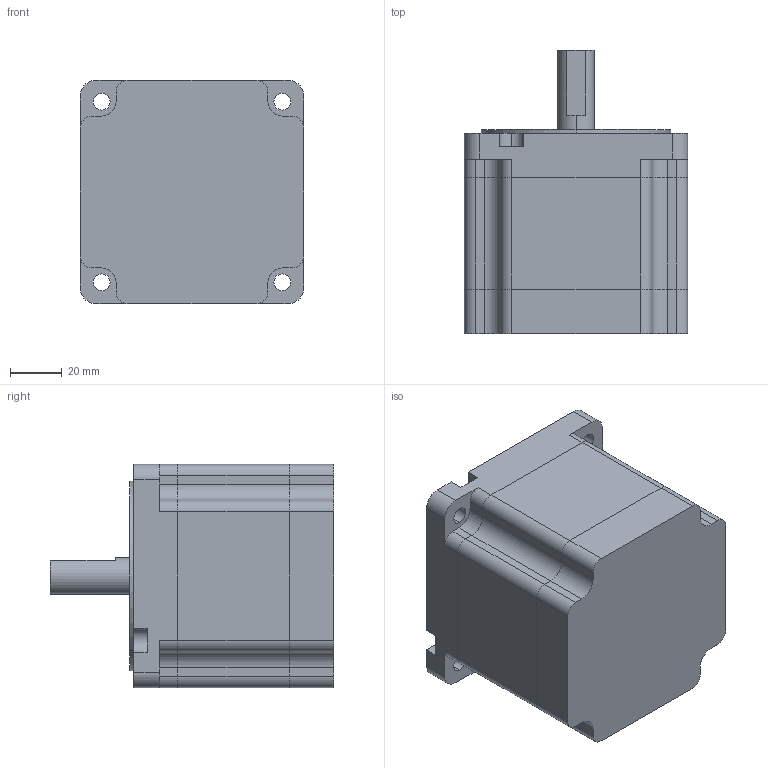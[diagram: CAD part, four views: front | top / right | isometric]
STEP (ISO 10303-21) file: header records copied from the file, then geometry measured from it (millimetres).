
FILE_DESCRIPTION (( 'STEP AP214' ), '1' );
FILE_NAME ('86A4S4-14£¨86HS78-D1432-005£©.STEP', '2020-07-19T02:42:36', ( 'wimxt.com' ), ( 'wimxt.com' ), 'SwSTEP 2.0', 'SolidWorks 2014', '' );
FILE_SCHEMA (( 'AUTOMOTIVE_DESIGN' ));
Length unit declared in the file: millimetre
Products named in the file (4): 86A4S4-14（86HS78-D1432-005）; 86A4S4-14傷裔; 86A4菁釱; 86A4隅赽
Assembly tree (3 placements, depth 2):
  86A4S4-14（86HS78-D1432-005）
    86A4隅赽
    86A4菁釱
    86A4S4-14傷裔
Bounding box: 86 x 109 x 86 mm (x, y, z)
Volume: 272264 mm3; surface area: 79764.5 mm2
Topology: 3 solids, 4 shells, 173 faces, 463 edges, 309 vertices
Faces by surface type: cylinder 98, plane 75
Entity records: 5688 total; most frequent: DIRECTION 1016, CARTESIAN_POINT 957, ORIENTED_EDGE 926, EDGE_CURVE 463, AXIS2_PLACEMENT_3D 376, VERTEX_POINT 309, VECTOR 264, LINE 264
